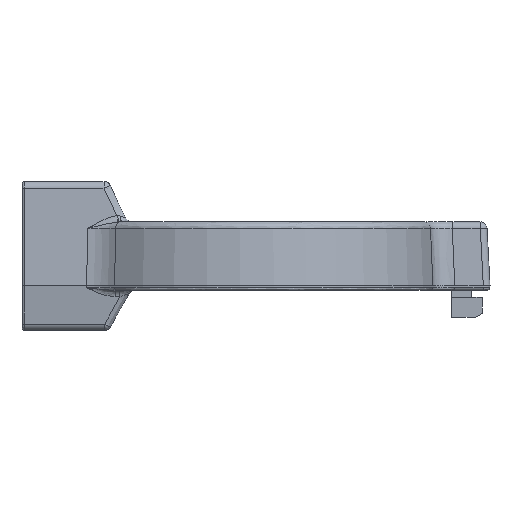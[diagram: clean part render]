
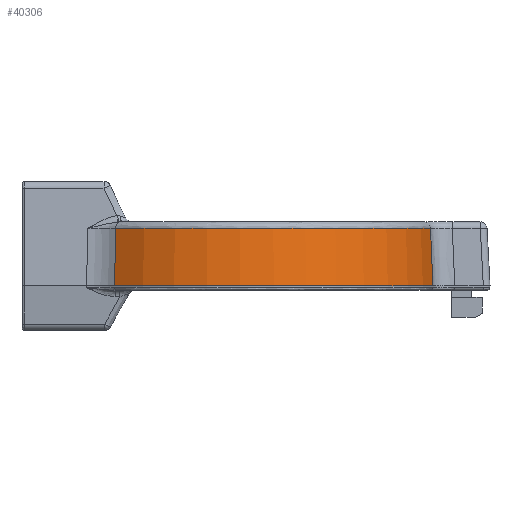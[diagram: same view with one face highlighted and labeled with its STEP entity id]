
A CAD part, left-side view. The second image highlights one B-rep face of the part: STEP entity #40306.
In plain terms, the highlighted free-form (B-spline) face has degree [2, 1] with [5, 2] control points.
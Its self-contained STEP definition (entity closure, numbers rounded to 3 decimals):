
#40163=CARTESIAN_POINT('',(-17.928,-82.816,-2.843));
#40164=VERTEX_POINT('',#40163);
#40175=CARTESIAN_POINT('',(-19.043,-83.865,-27.));
#40176=VERTEX_POINT('',#40175);
#40177=CARTESIAN_POINT('',(-19.043,-83.865,-27.));
#40178=CARTESIAN_POINT('',(-18.909,-83.74,-24.096));
#40179=CARTESIAN_POINT('',(-18.537,-83.391,-16.044));
#40180=CARTESIAN_POINT('',(-18.165,-83.04,-7.991));
#40181=CARTESIAN_POINT('',(-17.928,-82.816,-2.843));
#40182=B_SPLINE_CURVE_WITH_KNOTS('',3,(#40177,#40178,#40179,#40180,#40181),.UNSPECIFIED.,.F.,.U.,(4,1,4),(0.0,8.731,24.209),.UNSPECIFIED.);
#40183=EDGE_CURVE('',#40176,#40164,#40182,.T.);
#40226=CARTESIAN_POINT('',(-68.144,50.361,-2.843));
#40227=VERTEX_POINT('',#40226);
#40228=CARTESIAN_POINT('',(-69.364,50.84,-27.));
#40229=VERTEX_POINT('',#40228);
#40230=CARTESIAN_POINT('',(-68.144,50.361,-2.843));
#40231=CARTESIAN_POINT('',(-68.246,50.401,-4.861));
#40232=CARTESIAN_POINT('',(-68.652,50.561,-12.914));
#40233=CARTESIAN_POINT('',(-69.059,50.721,-20.966));
#40234=CARTESIAN_POINT('',(-69.364,50.84,-27.));
#40235=B_SPLINE_CURVE_WITH_KNOTS('',3,(#40230,#40231,#40232,#40233,#40234),.UNSPECIFIED.,.F.,.U.,(4,1,4),(2.847,8.911,27.041),.UNSPECIFIED.);
#40236=EDGE_CURVE('',#40227,#40229,#40235,.T.);
#40270=CARTESIAN_POINT('',(-69.136,51.149,-27.001));
#40271=CARTESIAN_POINT('',(-96.997,13.49,-27.001));
#40272=CARTESIAN_POINT('',(-80.469,-30.342,-27.001));
#40273=CARTESIAN_POINT('',(-63.942,-74.175,-27.001));
#40274=CARTESIAN_POINT('',(-18.153,-84.062,-27.001));
#40275=CARTESIAN_POINT('',(-68.118,50.396,-2.842));
#40276=CARTESIAN_POINT('',(-95.569,13.291,-2.842));
#40277=CARTESIAN_POINT('',(-79.285,-29.896,-2.842));
#40278=CARTESIAN_POINT('',(-63.,-73.083,-2.842));
#40279=CARTESIAN_POINT('',(-17.885,-82.825,-2.842));
#40287=(BOUNDED_SURFACE()B_SPLINE_SURFACE(2,1,((#40270,#40275),(#40271,#40276),(#40272,#40277),(#40273,#40278),(#40274,#40279)),.UNSPECIFIED.,.F.,.F.,.U.)B_SPLINE_SURFACE_WITH_KNOTS((3,2,3),(2,2),(0.0,0.5,1.0),(-0.001,24.191),.UNSPECIFIED.)GEOMETRIC_REPRESENTATION_ITEM()RATIONAL_B_SPLINE_SURFACE(((1.0,1.0),(0.878,0.878),(1.0,1.0),(0.878,0.878),(1.0,1.0)))REPRESENTATION_ITEM('')SURFACE());
#40288=CARTESIAN_POINT('',(0.0,0.0,-27.));
#40289=DIRECTION('',(0.0,0.0,1.));
#40290=DIRECTION('',(0.136,-0.991,0.0));
#40291=AXIS2_PLACEMENT_3D('',#40288,#40289,#40290);
#40292=CIRCLE('',#40291,86.);
#40293=EDGE_CURVE('',#40229,#40176,#40292,.T.);
#40294=ORIENTED_EDGE('',*,*,#40293,.T.);
#40295=ORIENTED_EDGE('',*,*,#40183,.T.);
#40296=CARTESIAN_POINT('',(0.0,0.0,-2.843));
#40297=DIRECTION('',(0.0,0.0,1.));
#40298=DIRECTION('',(0.136,-0.991,0.0));
#40299=AXIS2_PLACEMENT_3D('',#40296,#40297,#40298);
#40300=CIRCLE('',#40299,84.734);
#40301=EDGE_CURVE('',#40227,#40164,#40300,.T.);
#40302=ORIENTED_EDGE('',*,*,#40301,.F.);
#40303=ORIENTED_EDGE('',*,*,#40236,.T.);
#40304=EDGE_LOOP('',(#40294,#40295,#40302,#40303));
#40305=FACE_OUTER_BOUND('',#40304,.T.);
#40306=ADVANCED_FACE('',(#40305),#40287,.T.);
